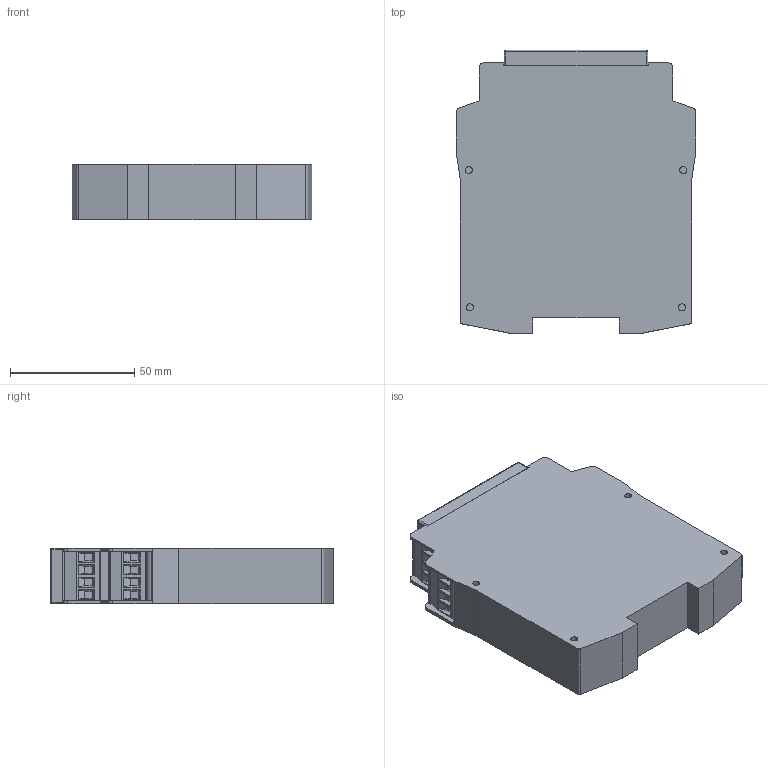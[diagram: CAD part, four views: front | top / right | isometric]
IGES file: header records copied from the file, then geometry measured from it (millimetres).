
Global section: file name: V:\Workgroups\wk_projekte_me\Projekte\KG5AT\P0781_Leuze_Brandlabel\3_Entwicklungsphase bis MS3\STEP_IGS_Dateien\R1_188_1818_0_E.igs; native system: NX V9.0; preprocessor: SIEMENS PLM Software NX 9.0; date: 20160425.100228; units: millimetre
Bounding box: 96.5 x 114 x 22.5 mm (x, y, z)
Surface area: 35212.8 mm2 (no closed solid volume)
Topology: 0 solids, 0 shells, 473 faces, 2714 edges, 2682 vertices
Faces by surface type: bspline 473
